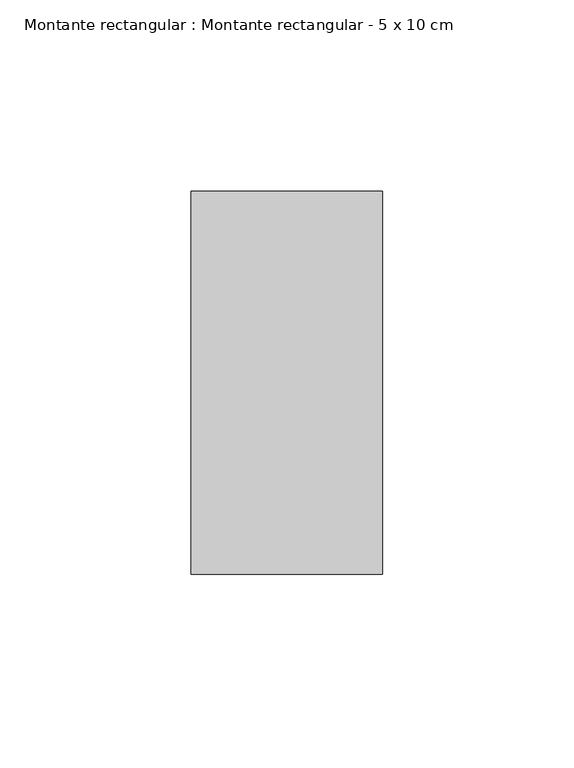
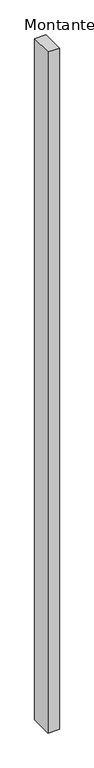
"""IFC4 building model written with IfcOpenShell, lengths in millimetres: member geometry, Montante rectangular : Montante rectangular - 5 x 10 cm."""

from ifc_helpers import new_model, si_unit, frame, origin, place, context, project, spatial, polyline, outline, extrude, source, transform, mapped, element, save


def montante_rectangular_montante_rectangular_5_x_10_cm_757a3403(model_context):
    return source(origin(), model_context, "Body", "SweptSolid", [
        extrude(outline(polyline([(0.0, 50.0), (0.0, -50.0), (-50.0, -50.0), (-50.0, 50.0), (0.0, 50.0)])), frame((0.0, 0.0, -3150.0), z_axis=(0.0, 0.0, 1.0), x_axis=(1.0, 0.0, 0.0)), (0.0, 0.0, 1.0), 3150.0),
    ])


if __name__ == "__main__":
    model = new_model("IFC4")
    model_context = context("Model", 3, world=origin())
    ifc_project = project(units=[si_unit("LENGTHUNIT", "METRE", prefix="MILLI")], contexts=[model_context])
    site = spatial("IfcSite", under=ifc_project)
    building = spatial("IfcBuilding", under=site)
    placement = place(None, origin())
    montante_rectangular_montante_rectangular_5_x_10_cm_shape = montante_rectangular_montante_rectangular_5_x_10_cm_757a3403(model_context)
    element("IfcMember", 1, ObjectType="Montante rectangular : Montante rectangular - 5 x 10 cm", at=placement, inside=building, context=model_context, shape_type="MappedRepresentation", body=[
        mapped(montante_rectangular_montante_rectangular_5_x_10_cm_shape, transform((0.0, 0.0, 0.0), x_axis=(1.0, 0.0, 0.0), y_axis=(0.0, 1.0, 0.0), z_axis=(0.0, 0.0, 1.0))),
    ])
    save(model, "model.ifc")
